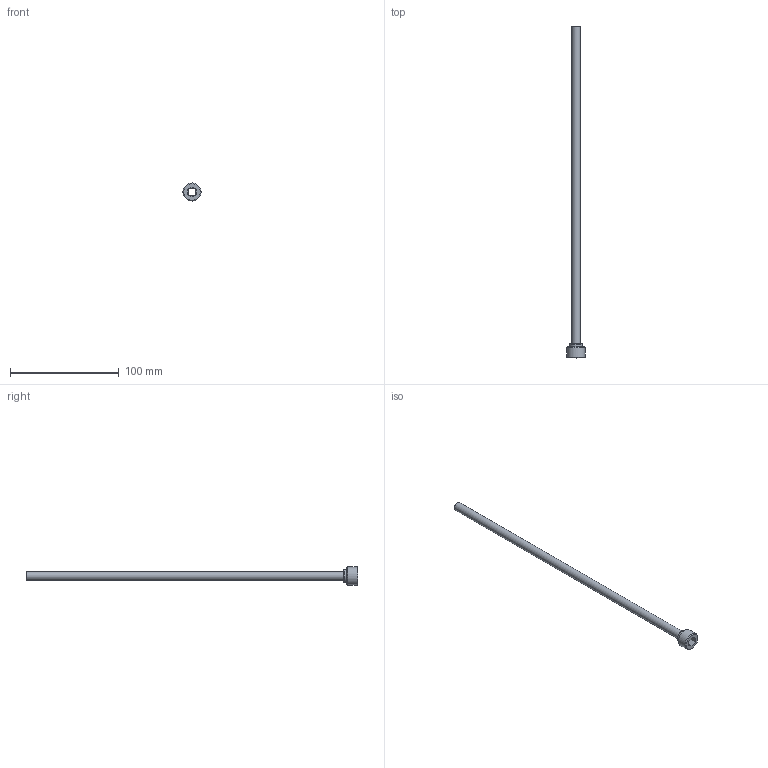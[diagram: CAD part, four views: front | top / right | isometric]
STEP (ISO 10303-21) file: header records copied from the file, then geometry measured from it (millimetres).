
FILE_DESCRIPTION(/* description */ (''),/* implementation_level */ '2;1');
FILE_NAME(/* name */ 'C:/Users/drich/Desktop/PT38-312-12 v1.step',/* time_stamp */ '2019-12-27T15:53:58-06:00',/* author */ (''),/* organization */ (''),/* preprocessor_version */ 'ST-DEVELOPER v18',/* originating_system */ 'Autodesk Translation Framework v8.12.0.6',/* authorisation */ '');
FILE_SCHEMA (('AUTOMOTIVE_DESIGN { 1 0 10303 214 3 1 1 }'));
Length unit declared in the file: inch
Products named in the file (1): PT38-312-12
Bounding box: 16.54 x 304.8 x 16.54 mm (x, y, z)
Volume: 3959.7 mm3; surface area: 15228.9 mm2
Topology: 1 solids, 1 shells, 19 faces, 48 edges, 34 vertices
Faces by surface type: plane 11, cylinder 4, torus 2, cone 2
Full cylindrical faces by diameter (mm): 7.315 x1, 7.925 x1, 11.938 x1, 16.537 x1
Entity records: 633 total; most frequent: DIRECTION 112, CARTESIAN_POINT 102, ORIENTED_EDGE 96, EDGE_CURVE 48, AXIS2_PLACEMENT_3D 44, VERTEX_POINT 34, CIRCLE 24, EDGE_LOOP 24
